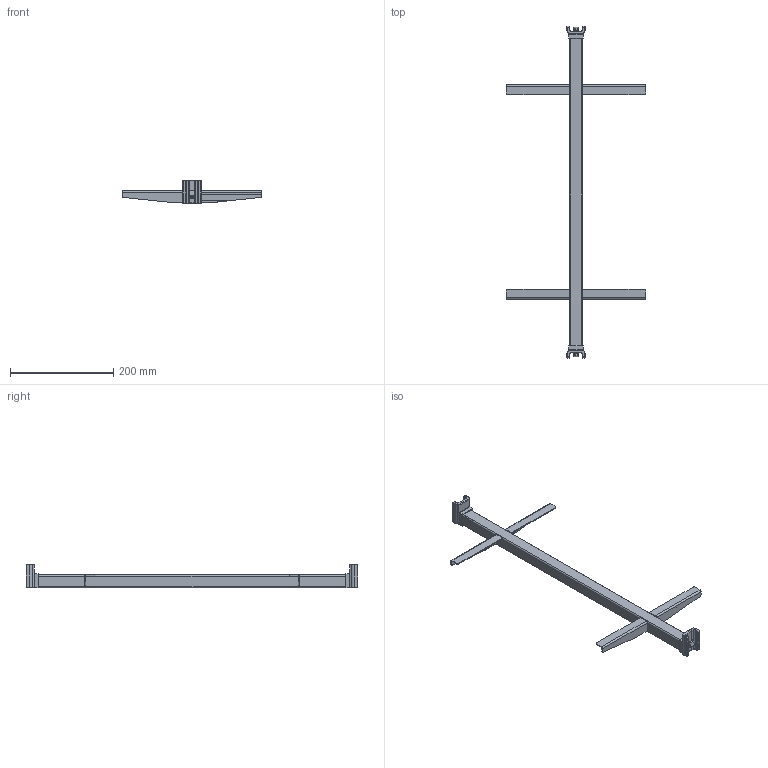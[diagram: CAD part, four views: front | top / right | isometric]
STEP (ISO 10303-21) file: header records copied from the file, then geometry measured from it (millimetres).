
FILE_DESCRIPTION (( 'STEP AP214' ), '1' );
FILE_NAME ('1000234.STEP', '2025-10-01T13:17:13', ( '' ), ( '' ), 'SwSTEP 2.0', 'SolidWorks 2025', '' );
FILE_SCHEMA (( 'AUTOMOTIVE_DESIGN' ));
Length unit declared in the file: millimetre
Products named in the file (1): 1000234
Bounding box: 270 x 643 x 46 mm (x, y, z)
Volume: 488480.7 mm3; surface area: 118820.4 mm2
Topology: 9 solids, 9 shells, 492 faces, 1331 edges, 857 vertices
Faces by surface type: plane 295, cylinder 177, bspline 20
Entity records: 16020 total; most frequent: CARTESIAN_POINT 3847, ORIENTED_EDGE 2662, DIRECTION 2322, EDGE_CURVE 1331, VECTOR 882, LINE 882, VERTEX_POINT 857, AXIS2_PLACEMENT_3D 720
